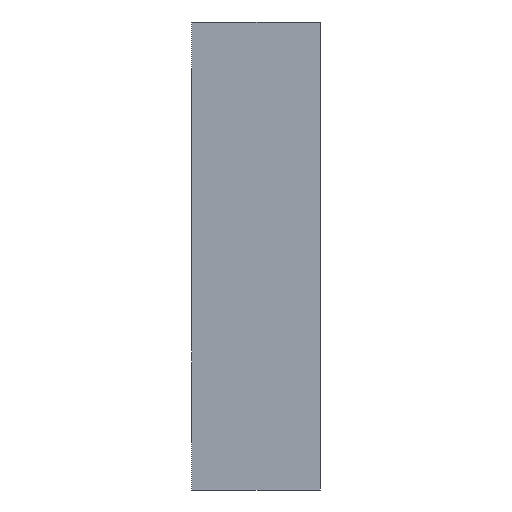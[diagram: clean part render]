
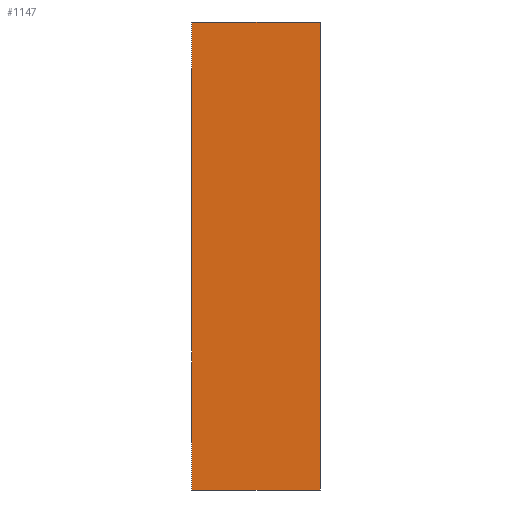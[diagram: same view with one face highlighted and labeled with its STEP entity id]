
A CAD part, left-side view. The second image highlights one B-rep face of the part: STEP entity #1147.
In plain terms, the highlighted planar face has unit normal (-1, 0, 0).
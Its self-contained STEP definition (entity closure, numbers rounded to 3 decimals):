
#2 = PLANE ( 'NONE',  #7 ) ;
#7 = AXIS2_PLACEMENT_3D ( 'NONE', #82, #81, #80 ) ;
#12 = CARTESIAN_POINT ( 'NONE',  ( -26., 5.5, 10. ) ) ;
#13 = CARTESIAN_POINT ( 'NONE',  ( -26., 0., 10. ) ) ;
#34 = FACE_OUTER_BOUND ( 'NONE', #1148, .T. ) ;
#40 = CARTESIAN_POINT ( 'NONE',  ( -26., 5.5, 10. ) ) ;
#41 = LINE ( 'NONE', #12, #79 ) ;
#78 = DIRECTION ( 'NONE',  ( 0., -1., 0. ) ) ;
#79 = VECTOR ( 'NONE', #78, 1000. ) ;
#80 = DIRECTION ( 'NONE',  ( 0., 0., -1. ) ) ;
#81 = DIRECTION ( 'NONE',  ( 1., 0., 0. ) ) ;
#82 = CARTESIAN_POINT ( 'NONE',  ( -26., 5.5, 10. ) ) ;
#134 = CARTESIAN_POINT ( 'NONE',  ( -26., 0., -10. ) ) ;
#135 = DIRECTION ( 'NONE',  ( 0., 0., 1. ) ) ;
#137 = VECTOR ( 'NONE', #135, 1000. ) ;
#138 = CARTESIAN_POINT ( 'NONE',  ( -26., 0., 10. ) ) ;
#149 = LINE ( 'NONE', #138, #137 ) ;
#966 = ORIENTED_EDGE ( 'NONE', *, *, #967, .F. ) ;
#967 = EDGE_CURVE ( 'NONE', #968, #1155, #1559, .T. ) ;
#968 = VERTEX_POINT ( 'NONE', #1555 ) ;
#969 = ORIENTED_EDGE ( 'NONE', *, *, #970, .T. ) ;
#970 = EDGE_CURVE ( 'NONE', #968, #1151, #1757, .T. ) ;
#1147 = ADVANCED_FACE ( 'NONE', ( #34 ), #2, .F. ) ;
#1148 = EDGE_LOOP ( 'NONE', ( #1149, #1153, #966, #969 ) ) ;
#1149 = ORIENTED_EDGE ( 'NONE', *, *, #1150, .T. ) ;
#1150 = EDGE_CURVE ( 'NONE', #1151, #1152, #149, .T. ) ;
#1151 = VERTEX_POINT ( 'NONE', #134 ) ;
#1152 = VERTEX_POINT ( 'NONE', #13 ) ;
#1153 = ORIENTED_EDGE ( 'NONE', *, *, #1154, .F. ) ;
#1154 = EDGE_CURVE ( 'NONE', #1155, #1152, #41, .T. ) ;
#1155 = VERTEX_POINT ( 'NONE', #40 ) ;
#1555 = CARTESIAN_POINT ( 'NONE',  ( -26., 5.5, -10. ) ) ;
#1556 = DIRECTION ( 'NONE',  ( 0., 0., 1. ) ) ;
#1557 = VECTOR ( 'NONE', #1556, 1000. ) ;
#1558 = CARTESIAN_POINT ( 'NONE',  ( -26., 5.5, 10. ) ) ;
#1559 = LINE ( 'NONE', #1558, #1557 ) ;
#1754 = DIRECTION ( 'NONE',  ( 0., -1., 0. ) ) ;
#1755 = VECTOR ( 'NONE', #1754, 1000. ) ;
#1756 = CARTESIAN_POINT ( 'NONE',  ( -26., 5.5, -10. ) ) ;
#1757 = LINE ( 'NONE', #1756, #1755 ) ;
